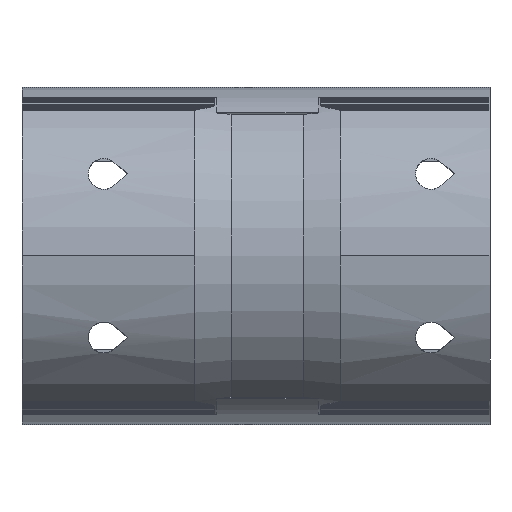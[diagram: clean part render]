
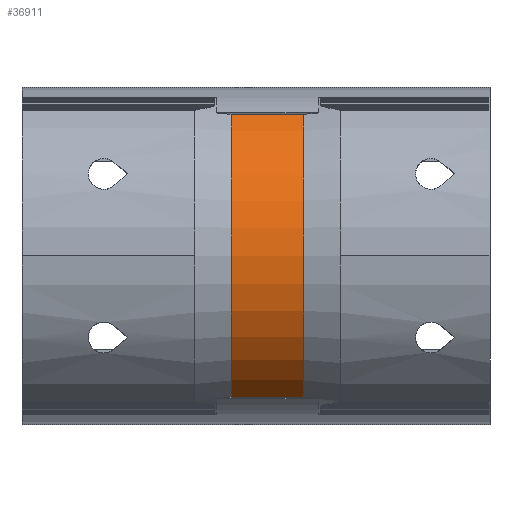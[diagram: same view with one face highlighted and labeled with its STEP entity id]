
A CAD part, top view. The second image highlights one B-rep face of the part: STEP entity #36911.
In plain terms, the highlighted cylindrical face has radius 18.35 mm (diameter 36.7 mm), a partial arc.
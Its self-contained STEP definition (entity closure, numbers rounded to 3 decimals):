
#127 = CONICAL_SURFACE('',#128,18.85,0.124);
#128 = AXIS2_PLACEMENT_3D('',#129,#130,#131);
#129 = CARTESIAN_POINT('',(271.,0.,0.));
#130 = DIRECTION('',(-1.,-0.,-0.));
#131 = DIRECTION('',(-0.,1.,0.));
#635 = VERTEX_POINT('',#636);
#636 = CARTESIAN_POINT('',(275.,-15.562,9.724));
#649 = PLANE('',#650);
#650 = AXIS2_PLACEMENT_3D('',#651,#652,#653);
#651 = CARTESIAN_POINT('',(252.,0.,0.));
#652 = DIRECTION('',(0.,-0.53,-0.848));
#653 = DIRECTION('',(0.,-0.848,0.53));
#660 = EDGE_CURVE('',#661,#635,#663,.T.);
#661 = VERTEX_POINT('',#662);
#662 = CARTESIAN_POINT('',(275.,15.562,9.724));
#663 = SURFACE_CURVE('',#664,(#669,#676),.PCURVE_S1.);
#664 = CIRCLE('',#665,18.35);
#665 = AXIS2_PLACEMENT_3D('',#666,#667,#668);
#666 = CARTESIAN_POINT('',(275.,0.,0.));
#667 = DIRECTION('',(1.,0.,0.));
#668 = DIRECTION('',(-0.,1.,0.));
#669 = PCURVE('',#127,#670);
#670 = DEFINITIONAL_REPRESENTATION('',(#671),#675);
#671 = LINE('',#672,#673);
#672 = CARTESIAN_POINT('',(-0.,-4.));
#673 = VECTOR('',#674,1.);
#674 = DIRECTION('',(-1.,-0.));
#675 = ( GEOMETRIC_REPRESENTATION_CONTEXT(2) 
PARAMETRIC_REPRESENTATION_CONTEXT() REPRESENTATION_CONTEXT('2D SPACE',''
  ) );
#676 = PCURVE('',#677,#682);
#677 = CYLINDRICAL_SURFACE('',#678,18.35);
#678 = AXIS2_PLACEMENT_3D('',#679,#680,#681);
#679 = CARTESIAN_POINT('',(275.,0.,0.));
#680 = DIRECTION('',(1.,0.,0.));
#681 = DIRECTION('',(-0.,1.,0.));
#682 = DEFINITIONAL_REPRESENTATION('',(#683),#687);
#683 = LINE('',#684,#685);
#684 = CARTESIAN_POINT('',(0.,0.));
#685 = VECTOR('',#686,1.);
#686 = DIRECTION('',(1.,0.));
#687 = ( GEOMETRIC_REPRESENTATION_CONTEXT(2) 
PARAMETRIC_REPRESENTATION_CONTEXT() REPRESENTATION_CONTEXT('2D SPACE',''
  ) );
#704 = PLANE('',#705);
#705 = AXIS2_PLACEMENT_3D('',#706,#707,#708);
#706 = CARTESIAN_POINT('',(252.,0.,0.));
#707 = DIRECTION('',(0.,-0.53,0.848));
#708 = DIRECTION('',(0.,0.848,0.53));
#8287 = CONICAL_SURFACE('',#8288,18.35,0.124);
#8288 = AXIS2_PLACEMENT_3D('',#8289,#8290,#8291);
#8289 = CARTESIAN_POINT('',(283.,0.,0.));
#8290 = DIRECTION('',(1.,0.,0.));
#8291 = DIRECTION('',(-0.,1.,0.));
#26873 = VERTEX_POINT('',#26874);
#26874 = CARTESIAN_POINT('',(283.,15.562,9.724));
#26895 = EDGE_CURVE('',#26873,#26896,#26898,.T.);
#26896 = VERTEX_POINT('',#26897);
#26897 = CARTESIAN_POINT('',(283.,-15.562,9.724));
#26898 = SURFACE_CURVE('',#26899,(#26904,#26911),.PCURVE_S1.);
#26899 = CIRCLE('',#26900,18.35);
#26900 = AXIS2_PLACEMENT_3D('',#26901,#26902,#26903);
#26901 = CARTESIAN_POINT('',(283.,0.,0.));
#26902 = DIRECTION('',(1.,0.,0.));
#26903 = DIRECTION('',(-0.,1.,0.));
#26904 = PCURVE('',#8287,#26905);
#26905 = DEFINITIONAL_REPRESENTATION('',(#26906),#26910);
#26906 = LINE('',#26907,#26908);
#26907 = CARTESIAN_POINT('',(0.,0.));
#26908 = VECTOR('',#26909,1.);
#26909 = DIRECTION('',(1.,0.));
#26910 = ( GEOMETRIC_REPRESENTATION_CONTEXT(2) 
PARAMETRIC_REPRESENTATION_CONTEXT() REPRESENTATION_CONTEXT('2D SPACE',''
  ) );
#26911 = PCURVE('',#677,#26912);
#26912 = DEFINITIONAL_REPRESENTATION('',(#26913),#26917);
#26913 = LINE('',#26914,#26915);
#26914 = CARTESIAN_POINT('',(0.,8.));
#26915 = VECTOR('',#26916,1.);
#26916 = DIRECTION('',(1.,0.));
#26917 = ( GEOMETRIC_REPRESENTATION_CONTEXT(2) 
PARAMETRIC_REPRESENTATION_CONTEXT() REPRESENTATION_CONTEXT('2D SPACE',''
  ) );
#36892 = EDGE_CURVE('',#635,#26896,#36893,.T.);
#36893 = SURFACE_CURVE('',#36894,(#36898,#36904),.PCURVE_S1.);
#36894 = LINE('',#36895,#36896);
#36895 = CARTESIAN_POINT('',(275.,-15.562,9.724));
#36896 = VECTOR('',#36897,1.);
#36897 = DIRECTION('',(1.,0.,0.));
#36898 = PCURVE('',#649,#36899);
#36899 = DEFINITIONAL_REPRESENTATION('',(#36900),#36903);
#36900 = B_SPLINE_CURVE_WITH_KNOTS('',1,(#36901,#36902),.UNSPECIFIED.,
  .F.,.F.,(2,2),(0.,8.),
  .PIECEWISE_BEZIER_KNOTS.);
#36901 = CARTESIAN_POINT('',(18.35,-23.));
#36902 = CARTESIAN_POINT('',(18.35,-31.));
#36903 = ( GEOMETRIC_REPRESENTATION_CONTEXT(2) 
PARAMETRIC_REPRESENTATION_CONTEXT() REPRESENTATION_CONTEXT('2D SPACE',''
  ) );
#36904 = PCURVE('',#677,#36905);
#36905 = DEFINITIONAL_REPRESENTATION('',(#36906),#36909);
#36906 = B_SPLINE_CURVE_WITH_KNOTS('',1,(#36907,#36908),.UNSPECIFIED.,
  .F.,.F.,(2,2),(0.,8.),
  .PIECEWISE_BEZIER_KNOTS.);
#36907 = CARTESIAN_POINT('',(2.583,0.));
#36908 = CARTESIAN_POINT('',(2.583,8.));
#36909 = ( GEOMETRIC_REPRESENTATION_CONTEXT(2) 
PARAMETRIC_REPRESENTATION_CONTEXT() REPRESENTATION_CONTEXT('2D SPACE',''
  ) );
#36911 = ADVANCED_FACE('',(#36912),#677,.T.);
#36912 = FACE_BOUND('',#36913,.T.);
#36913 = EDGE_LOOP('',(#36914,#36933,#36934,#36935));
#36914 = ORIENTED_EDGE('',*,*,#36915,.F.);
#36915 = EDGE_CURVE('',#661,#26873,#36916,.T.);
#36916 = SURFACE_CURVE('',#36917,(#36921,#36927),.PCURVE_S1.);
#36917 = LINE('',#36918,#36919);
#36918 = CARTESIAN_POINT('',(275.,15.562,9.724));
#36919 = VECTOR('',#36920,1.);
#36920 = DIRECTION('',(1.,0.,0.));
#36921 = PCURVE('',#677,#36922);
#36922 = DEFINITIONAL_REPRESENTATION('',(#36923),#36926);
#36923 = B_SPLINE_CURVE_WITH_KNOTS('',1,(#36924,#36925),.UNSPECIFIED.,
  .F.,.F.,(2,2),(0.,8.),
  .PIECEWISE_BEZIER_KNOTS.);
#36924 = CARTESIAN_POINT('',(0.559,0.));
#36925 = CARTESIAN_POINT('',(0.559,8.));
#36926 = ( GEOMETRIC_REPRESENTATION_CONTEXT(2) 
PARAMETRIC_REPRESENTATION_CONTEXT() REPRESENTATION_CONTEXT('2D SPACE',''
  ) );
#36927 = PCURVE('',#704,#36928);
#36928 = DEFINITIONAL_REPRESENTATION('',(#36929),#36932);
#36929 = B_SPLINE_CURVE_WITH_KNOTS('',1,(#36930,#36931),.UNSPECIFIED.,
  .F.,.F.,(2,2),(0.,8.),
  .PIECEWISE_BEZIER_KNOTS.);
#36930 = CARTESIAN_POINT('',(18.35,-23.));
#36931 = CARTESIAN_POINT('',(18.35,-31.));
#36932 = ( GEOMETRIC_REPRESENTATION_CONTEXT(2) 
PARAMETRIC_REPRESENTATION_CONTEXT() REPRESENTATION_CONTEXT('2D SPACE',''
  ) );
#36933 = ORIENTED_EDGE('',*,*,#660,.T.);
#36934 = ORIENTED_EDGE('',*,*,#36892,.T.);
#36935 = ORIENTED_EDGE('',*,*,#26895,.F.);
